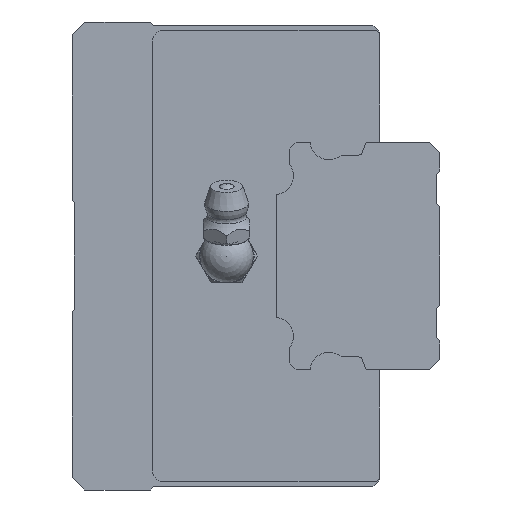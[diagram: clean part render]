
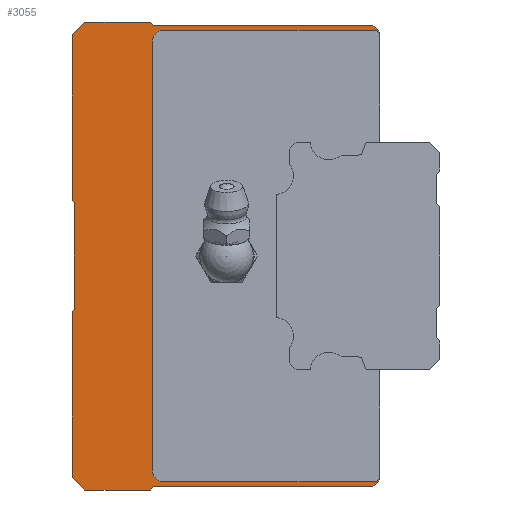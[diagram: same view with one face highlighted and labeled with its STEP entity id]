
A CAD part, left-side view. The second image highlights one B-rep face of the part: STEP entity #3055.
In plain terms, the highlighted planar face has unit normal (-1, 0, 0).
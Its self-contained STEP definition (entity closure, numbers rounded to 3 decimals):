
#185=CIRCLE('',#3368,1.8);
#186=CIRCLE('',#3369,1.8);
#740=ORIENTED_EDGE('',*,*,#1419,.F.);
#741=ORIENTED_EDGE('',*,*,#1279,.F.);
#742=ORIENTED_EDGE('',*,*,#1377,.F.);
#743=ORIENTED_EDGE('',*,*,#1374,.F.);
#744=ORIENTED_EDGE('',*,*,#1371,.F.);
#745=ORIENTED_EDGE('',*,*,#1368,.F.);
#746=ORIENTED_EDGE('',*,*,#1364,.F.);
#747=ORIENTED_EDGE('',*,*,#1410,.F.);
#748=ORIENTED_EDGE('',*,*,#1405,.F.);
#749=ORIENTED_EDGE('',*,*,#1402,.F.);
#750=ORIENTED_EDGE('',*,*,#1399,.F.);
#751=ORIENTED_EDGE('',*,*,#1396,.F.);
#752=ORIENTED_EDGE('',*,*,#1391,.F.);
#753=ORIENTED_EDGE('',*,*,#1388,.F.);
#754=ORIENTED_EDGE('',*,*,#1385,.F.);
#755=ORIENTED_EDGE('',*,*,#1382,.F.);
#756=ORIENTED_EDGE('',*,*,#1379,.F.);
#757=ORIENTED_EDGE('',*,*,#1285,.F.);
#758=ORIENTED_EDGE('',*,*,#1420,.F.);
#759=ORIENTED_EDGE('',*,*,#1421,.F.);
#760=ORIENTED_EDGE('',*,*,#1422,.F.);
#761=ORIENTED_EDGE('',*,*,#1423,.F.);
#762=ORIENTED_EDGE('',*,*,#1424,.F.);
#763=ORIENTED_EDGE('',*,*,#1425,.F.);
#1279=EDGE_CURVE('',#1665,#1666,#1962,.T.);
#1285=EDGE_CURVE('',#1671,#1672,#1968,.T.);
#1364=EDGE_CURVE('',#1746,#1747,#2009,.T.);
#1368=EDGE_CURVE('',#1747,#1750,#2013,.T.);
#1371=EDGE_CURVE('',#1750,#1752,#2016,.T.);
#1374=EDGE_CURVE('',#1752,#1754,#2019,.T.);
#1377=EDGE_CURVE('',#1754,#1665,#2022,.T.);
#1379=EDGE_CURVE('',#1672,#1756,#2024,.T.);
#1382=EDGE_CURVE('',#1756,#1758,#2027,.T.);
#1385=EDGE_CURVE('',#1758,#1760,#2030,.T.);
#1388=EDGE_CURVE('',#1760,#1762,#2033,.T.);
#1391=EDGE_CURVE('',#1762,#1764,#2036,.T.);
#1396=EDGE_CURVE('',#1764,#1768,#2039,.T.);
#1399=EDGE_CURVE('',#1768,#1770,#2042,.T.);
#1402=EDGE_CURVE('',#1770,#1772,#2045,.T.);
#1405=EDGE_CURVE('',#1772,#1774,#2048,.T.);
#1410=EDGE_CURVE('',#1774,#1746,#2051,.T.);
#1419=EDGE_CURVE('',#1666,#1784,#2058,.T.);
#1420=EDGE_CURVE('',#1785,#1671,#2059,.T.);
#1421=EDGE_CURVE('',#1786,#1785,#2060,.T.);
#1422=EDGE_CURVE('',#1787,#1786,#185,.F.);
#1423=EDGE_CURVE('',#1788,#1787,#2061,.T.);
#1424=EDGE_CURVE('',#1789,#1788,#186,.F.);
#1425=EDGE_CURVE('',#1784,#1789,#2062,.T.);
#1665=VERTEX_POINT('',#4734);
#1666=VERTEX_POINT('',#4736);
#1671=VERTEX_POINT('',#4747);
#1672=VERTEX_POINT('',#4749);
#1746=VERTEX_POINT('',#4905);
#1747=VERTEX_POINT('',#4906);
#1750=VERTEX_POINT('',#4914);
#1752=VERTEX_POINT('',#4920);
#1754=VERTEX_POINT('',#4926);
#1756=VERTEX_POINT('',#4935);
#1758=VERTEX_POINT('',#4941);
#1760=VERTEX_POINT('',#4947);
#1762=VERTEX_POINT('',#4953);
#1764=VERTEX_POINT('',#4959);
#1768=VERTEX_POINT('',#4969);
#1770=VERTEX_POINT('',#4975);
#1772=VERTEX_POINT('',#4981);
#1774=VERTEX_POINT('',#4987);
#1784=VERTEX_POINT('',#5014);
#1785=VERTEX_POINT('',#5016);
#1786=VERTEX_POINT('',#5018);
#1787=VERTEX_POINT('',#5020);
#1788=VERTEX_POINT('',#5022);
#1789=VERTEX_POINT('',#5024);
#1962=LINE('',#4735,#2226);
#1968=LINE('',#4748,#2232);
#2009=LINE('',#4904,#2273);
#2013=LINE('',#4913,#2277);
#2016=LINE('',#4919,#2280);
#2019=LINE('',#4925,#2283);
#2022=LINE('',#4931,#2286);
#2024=LINE('',#4934,#2288);
#2027=LINE('',#4940,#2291);
#2030=LINE('',#4946,#2294);
#2033=LINE('',#4952,#2297);
#2036=LINE('',#4958,#2300);
#2039=LINE('',#4968,#2303);
#2042=LINE('',#4974,#2306);
#2045=LINE('',#4980,#2309);
#2048=LINE('',#4986,#2312);
#2051=LINE('',#4996,#2315);
#2058=LINE('',#5013,#2322);
#2059=LINE('',#5015,#2323);
#2060=LINE('',#5017,#2324);
#2061=LINE('',#5021,#2325);
#2062=LINE('',#5025,#2326);
#2226=VECTOR('',#3826,1000.);
#2232=VECTOR('',#3834,1000.);
#2273=VECTOR('',#3957,1000.);
#2277=VECTOR('',#3963,1000.);
#2280=VECTOR('',#3968,1000.);
#2283=VECTOR('',#3973,1000.);
#2286=VECTOR('',#3978,1000.);
#2288=VECTOR('',#3982,1000.);
#2291=VECTOR('',#3987,1000.);
#2294=VECTOR('',#3992,1000.);
#2297=VECTOR('',#3997,1000.);
#2300=VECTOR('',#4002,1000.);
#2303=VECTOR('',#4011,1000.);
#2306=VECTOR('',#4016,1000.);
#2309=VECTOR('',#4021,1000.);
#2312=VECTOR('',#4026,1000.);
#2315=VECTOR('',#4035,1000.);
#2322=VECTOR('',#4050,1000.);
#2323=VECTOR('',#4051,1000.);
#2324=VECTOR('',#4052,1000.);
#2325=VECTOR('',#4055,1000.);
#2326=VECTOR('',#4058,1000.);
#2497=EDGE_LOOP('',(#740,#741,#742,#743,#744,#745,#746,#747,#748,#749,#750,
#751,#752,#753,#754,#755,#756,#757,#758,#759,#760,#761,#762,#763));
#2736=FACE_BOUND('',#2497,.T.);
#2931=PLANE('',#3367);
#3055=ADVANCED_FACE('',(#2736),#2931,.F.);
#3367=AXIS2_PLACEMENT_3D('',#5012,#4048,#4049);
#3368=AXIS2_PLACEMENT_3D('',#5019,#4053,#4054);
#3369=AXIS2_PLACEMENT_3D('',#5023,#4056,#4057);
#3826=DIRECTION('',(0.,0.,-1.));
#3834=DIRECTION('',(0.,0.,-1.));
#3957=DIRECTION('',(0.,-0.707,0.707));
#3963=DIRECTION('',(0.,-1.,0.));
#3968=DIRECTION('',(0.,-0.707,-0.707));
#3973=DIRECTION('',(0.,-1.,0.));
#3978=DIRECTION('',(0.,-0.707,-0.707));
#3982=DIRECTION('',(0.,0.707,-0.707));
#3987=DIRECTION('',(0.,1.,0.));
#3992=DIRECTION('',(0.,0.707,-0.707));
#3997=DIRECTION('',(0.,1.,0.));
#4002=DIRECTION('',(0.,0.707,0.707));
#4011=DIRECTION('',(0.,0.,1.));
#4016=DIRECTION('',(0.,-0.707,0.707));
#4021=DIRECTION('',(0.,0.,1.));
#4026=DIRECTION('',(0.,0.707,0.707));
#4035=DIRECTION('',(0.,0.,1.));
#4048=DIRECTION('',(1.,0.,0.));
#4049=DIRECTION('',(0.,0.,-1.));
#4050=DIRECTION('',(0.,0.707,0.707));
#4051=DIRECTION('',(0.,-0.707,0.707));
#4052=DIRECTION('',(0.,-1.,0.));
#4053=DIRECTION('',(1.,0.,0.));
#4054=DIRECTION('',(0.,0.,-1.));
#4055=DIRECTION('',(0.,0.,-1.));
#4056=DIRECTION('',(1.,0.,0.));
#4057=DIRECTION('',(0.,0.,-1.));
#4058=DIRECTION('',(0.,1.,0.));
#4734=CARTESIAN_POINT('',(-52.25,0.,33.5));
#4735=CARTESIAN_POINT('',(-52.25,0.,33.5));
#4736=CARTESIAN_POINT('',(-52.25,0.,33.3));
#4747=CARTESIAN_POINT('',(-52.25,0.,-33.3));
#4748=CARTESIAN_POINT('',(-52.25,0.,33.5));
#4749=CARTESIAN_POINT('',(-52.25,0.,-33.5));
#4904=CARTESIAN_POINT('',(-52.25,46.,33.1));
#4905=CARTESIAN_POINT('',(-52.25,46.,33.1));
#4906=CARTESIAN_POINT('',(-52.25,44.1,35.));
#4913=CARTESIAN_POINT('',(-52.25,44.1,35.));
#4914=CARTESIAN_POINT('',(-52.25,34.3,35.));
#4919=CARTESIAN_POINT('',(-52.25,34.3,35.));
#4920=CARTESIAN_POINT('',(-52.25,33.8,34.5));
#4925=CARTESIAN_POINT('',(-52.25,33.8,34.5));
#4926=CARTESIAN_POINT('',(-52.25,1.,34.5));
#4931=CARTESIAN_POINT('',(-52.25,1.,34.5));
#4934=CARTESIAN_POINT('',(-52.25,0.,-33.5));
#4935=CARTESIAN_POINT('',(-52.25,1.,-34.5));
#4940=CARTESIAN_POINT('',(-52.25,1.,-34.5));
#4941=CARTESIAN_POINT('',(-52.25,33.8,-34.5));
#4946=CARTESIAN_POINT('',(-52.25,33.8,-34.5));
#4947=CARTESIAN_POINT('',(-52.25,34.3,-35.));
#4952=CARTESIAN_POINT('',(-52.25,34.3,-35.));
#4953=CARTESIAN_POINT('',(-52.25,44.1,-35.));
#4958=CARTESIAN_POINT('',(-52.25,44.1,-35.));
#4959=CARTESIAN_POINT('',(-52.25,46.,-33.1));
#4968=CARTESIAN_POINT('',(-52.25,46.,-33.1));
#4969=CARTESIAN_POINT('',(-52.25,46.,-8.3));
#4974=CARTESIAN_POINT('',(-52.25,46.,-8.3));
#4975=CARTESIAN_POINT('',(-52.25,45.7,-8.));
#4980=CARTESIAN_POINT('',(-52.25,45.7,-8.));
#4981=CARTESIAN_POINT('',(-52.25,45.7,8.));
#4986=CARTESIAN_POINT('',(-52.25,45.7,8.));
#4987=CARTESIAN_POINT('',(-52.25,46.,8.3));
#4996=CARTESIAN_POINT('',(-52.25,46.,8.3));
#5012=CARTESIAN_POINT('',(-52.25,0.,0.));
#5013=CARTESIAN_POINT('',(-52.25,-16.65,16.65));
#5014=CARTESIAN_POINT('',(-52.25,0.5,33.8));
#5015=CARTESIAN_POINT('',(-52.25,-16.65,-16.65));
#5016=CARTESIAN_POINT('',(-52.25,0.5,-33.8));
#5017=CARTESIAN_POINT('',(-52.25,0.,-33.8));
#5018=CARTESIAN_POINT('',(-52.25,32.2,-33.8));
#5019=CARTESIAN_POINT('',(-52.25,32.2,-32.));
#5020=CARTESIAN_POINT('',(-52.25,34.,-32.));
#5021=CARTESIAN_POINT('',(-52.25,34.,0.));
#5022=CARTESIAN_POINT('',(-52.25,34.,32.));
#5023=CARTESIAN_POINT('',(-52.25,32.2,32.));
#5024=CARTESIAN_POINT('',(-52.25,32.2,33.8));
#5025=CARTESIAN_POINT('',(-52.25,0.,33.8));
